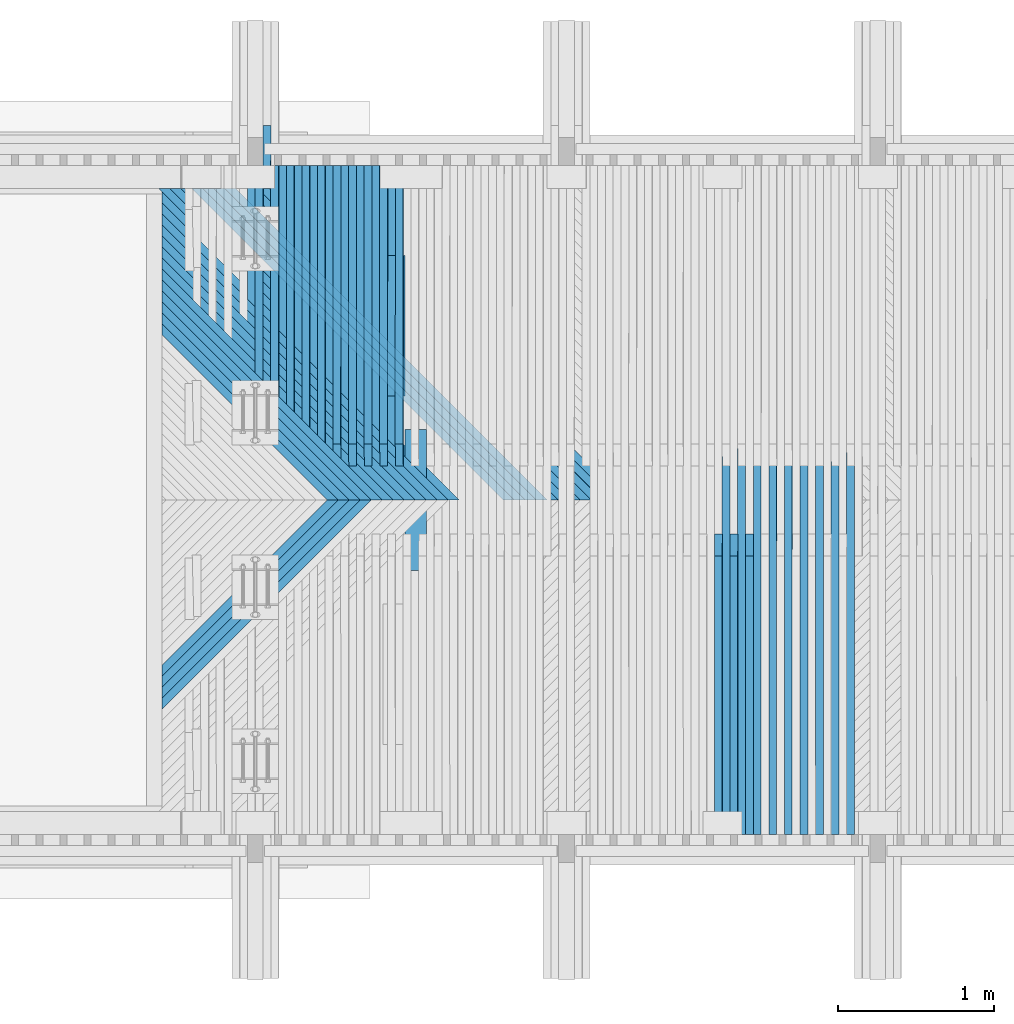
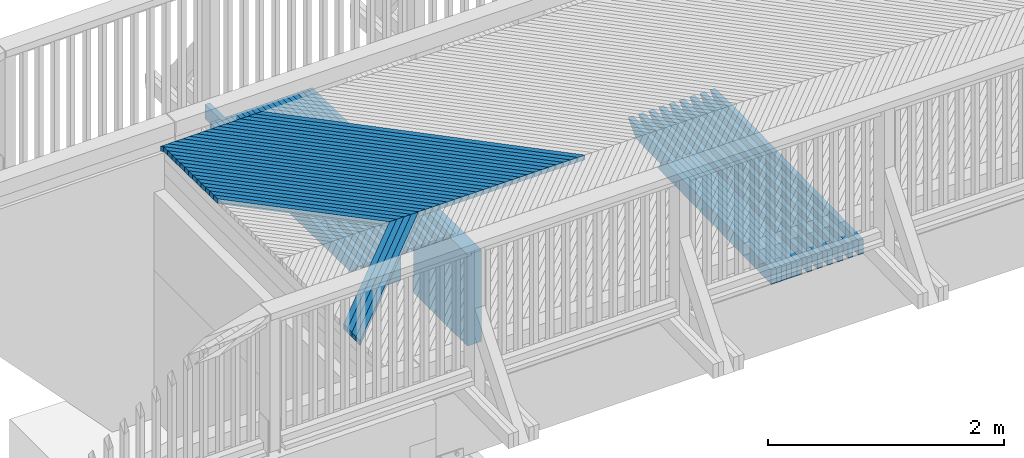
# One storey, part 19 of 53: 65 beams.
"""IFC2X3 building model written with IfcOpenShell, lengths in millimetres."""

from ifc_helpers import new_model, si_unit, frame, origin_with_axes, place, context, subcontext, project, spatial, faceted_brep, material, type_object, element, save


model = new_model("IFC2X3")

# Units and contexts
model_context = context("Model", 3, precision=1e-05, world=origin_with_axes())
body_context = subcontext(model_context, "Body", "Model", "MODEL_VIEW")
ifc_project = project(units=[si_unit("LENGTHUNIT", "METRE", prefix="MILLI"), si_unit("AREAUNIT", "SQUARE_METRE"), si_unit("VOLUMEUNIT", "CUBIC_METRE"), si_unit("MASSUNIT", "GRAM", prefix="KILO"), si_unit("TIMEUNIT", "SECOND"), si_unit("PLANEANGLEUNIT", "RADIAN"), si_unit("SOLIDANGLEUNIT", "STERADIAN"), si_unit("THERMODYNAMICTEMPERATUREUNIT", "DEGREE_CELSIUS"), si_unit("LUMINOUSINTENSITYUNIT", "LUMEN")], contexts=[model_context])

# Site, building, storey
site_placement = place(None, origin_with_axes())
site = spatial("IfcSite", under=ifc_project, at=site_placement, Name="Undefined", CompositionType="ELEMENT")
building_placement = place(site_placement, origin_with_axes())
building = spatial("IfcBuilding", under=site, at=building_placement, Name="Undefined", CompositionType="ELEMENT")
storey_placement = place(building_placement, origin_with_axes())
storey = spatial("IfcBuildingStorey", under=building, at=storey_placement, Name="Undefined", CompositionType="ELEMENT", Elevation=0.0)

# Beams
ifc_material = material(Name="TIMBER/Timber_Undefined")
beam_type_1 = type_object("IfcBeamType", Name="945*140", PredefinedType="NOTDEFINED")
for number, where, z_axis, x_axis in (
    (1, (1031.0, 42817.5, 2502.1379002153), (0.0, 0.0, 1.0), (0.0, -1.0, 0.0)),
    (2, (891.0, 43937.5, 2500.3779002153), (0.0, 0.0, 1.0), (0.0, -1.0, 0.0)),
):
    element("IfcBeam", number, at=place(storey_placement, frame(where, z_axis=z_axis, x_axis=x_axis)), inside=storey, type_object=beam_type_1, material=ifc_material, Name="PALKKI", ObjectType="945*140", context=body_context, shape_type="Brep", body=[
        faceted_brep([(0.0, 70.0, -472.5), (0.0, 70.0, 472.5), (905.0, 70.0, 472.5), (905.0, 70.0, -472.5), (0.0, -70.0, 472.5), (905.0, -70.0, 472.5), (0.0, -70.0, -472.5), (905.0, -70.0, -472.5)], [[[0, 1, 2, 3]], [[1, 4, 5, 2]], [[4, 6, 7, 5]], [[6, 0, 3, 7]], [[5, 7, 3, 2]], [[6, 4, 1, 0]]]),
    ])
beam_type_2 = type_object("IfcBeamType", Name="50*50", PredefinedType="NOTDEFINED")
beam_1_placement = place(storey_placement, frame((497.783472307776, 42364.5001003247, 3189.38189593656), z_axis=(0.707219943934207, -0.70698194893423, -0.00405891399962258), x_axis=(-0.706849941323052, -0.706948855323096, -0.024217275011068)))
element("IfcBeam", 3, at=beam_1_placement, inside=storey, type_object=beam_type_2, material=ifc_material, Name="BEAM", ObjectType="50*50", context=body_context, shape_type="Brep", body=[
    faceted_brep([(23.4806436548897, -25.0, -25.0), (-26.4222658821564, -25.0000000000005, 25.0000000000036), (-25.0086637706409, 24.9999999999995, 24.9999999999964), (24.8942457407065, 25.0, -25.0), (1528.55536067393, 25.0, -24.9999999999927), (1527.54724488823, -24.9999999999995, -24.9999999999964), (1577.57341753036, -25.0, 24.9999999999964), (1578.58153331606, 25.0, 25.0)], [[[0, 1, 2, 3]], [[0, 3, 4, 5]], [[1, 0, 5, 6]], [[2, 1, 6, 7]], [[3, 2, 7, 4]], [[6, 5, 4, 7]]]),
])
beam_2_placement = place(storey_placement, frame((497.783472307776, 42365.4998996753, 3189.38189593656), z_axis=(0.707219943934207, 0.70698194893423, -0.00405891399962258), x_axis=(-0.706849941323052, 0.706948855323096, -0.024217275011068)))
element("IfcBeam", 4, at=beam_2_placement, inside=storey, type_object=beam_type_2, material=ifc_material, Name="BEAM", ObjectType="50*50", context=body_context, shape_type="Brep", body=[
    faceted_brep([(25.0011701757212, -24.9999999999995, -24.9999999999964), (-25.001170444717, -24.9999999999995, 25.0000000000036), (-26.415415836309, 25.0000000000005, 25.0000000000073), (23.5869248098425, 25.0000000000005, -24.9999999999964), (1577.57341753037, 25.0000000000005, 24.9999999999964), (1527.54724488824, 24.9999999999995, -25.0000000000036), (1528.55536067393, -25.0, -24.9999999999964), (1578.58153331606, -25.0, 24.9999999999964)], [[[0, 1, 2, 3]], [[3, 2, 4, 5]], [[0, 3, 5, 6]], [[1, 0, 6, 7]], [[2, 1, 7, 4]], [[6, 5, 4, 7]]]),
])
beam_3_placement = place(storey_placement, frame((568.50226725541, 42364.5001003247, 3190.25895789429), z_axis=(0.707219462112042, -0.706981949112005, -0.0041419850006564), x_axis=(-0.706852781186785, -0.706948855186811, -0.0241342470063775)))
element("IfcBeam", 5, at=beam_3_placement, inside=storey, type_object=beam_type_2, material=ifc_material, Name="BEAM", ObjectType="50*50", context=body_context, shape_type="Brep", body=[
    faceted_brep([(23.4806436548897, -25.0, -25.0), (-26.4222658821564, -25.0000000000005, 25.0000000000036), (-25.0086637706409, 24.9999999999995, 24.9999999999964), (24.8942457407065, 25.0, -25.0), (1628.59250041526, 25.0, -25.0000000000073), (1627.5926949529, -24.9999999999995, -24.9999999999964), (1677.61863252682, -25.0000000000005, 25.0), (1678.61843798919, 24.9999999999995, 24.9999999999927)], [[[0, 1, 2, 3]], [[0, 3, 4, 5]], [[1, 0, 5, 6]], [[2, 1, 6, 7]], [[3, 2, 7, 4]], [[6, 5, 4, 7]]]),
])
beam_4_placement = place(storey_placement, frame((568.50226725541, 42365.4998996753, 3190.25895789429), z_axis=(0.707219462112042, 0.706981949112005, -0.0041419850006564), x_axis=(-0.706852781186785, 0.706948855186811, -0.0241342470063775)))
element("IfcBeam", 6, at=beam_4_placement, inside=storey, type_object=beam_type_2, material=ifc_material, Name="BEAM", ObjectType="50*50", context=body_context, shape_type="Brep", body=[
    faceted_brep([(25.0011701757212, -24.9999999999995, -24.9999999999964), (-25.001170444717, -24.9999999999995, 25.0000000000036), (-26.415415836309, 25.0000000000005, 25.0000000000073), (23.5869248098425, 25.0000000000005, -24.9999999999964), (1677.61863252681, 25.0, 25.0), (1627.59269495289, 24.9999999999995, -25.0000000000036), (1628.59250041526, -25.0, -25.0000000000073), (1678.61843798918, -25.0, 24.9999999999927)], [[[0, 1, 2, 3]], [[3, 2, 4, 5]], [[0, 3, 5, 6]], [[1, 0, 6, 7]], [[2, 1, 7, 4]], [[6, 5, 4, 7]]]),
])
beam_5_placement = place(storey_placement, frame((639.221164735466, 42364.5001003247, 3191.12771316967), z_axis=(0.707218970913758, -0.706981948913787, -0.00422505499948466), x_axis=(-0.70685561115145, -0.70694885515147, -0.0240512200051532)))
element("IfcBeam", 7, at=beam_5_placement, inside=storey, type_object=beam_type_2, material=ifc_material, Name="BEAM", ObjectType="50*50", context=body_context, shape_type="Brep", body=[
    faceted_brep([(23.4806436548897, -25.0, -25.0), (-26.4222658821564, -25.0000000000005, 25.0000000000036), (-25.0086637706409, 24.9999999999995, 24.9999999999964), (24.8942457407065, 25.0, -25.0), (1728.62900598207, 25.0000000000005, -25.0), (1727.63751066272, -25.0, -25.0000000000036), (1777.66321320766, -24.9999999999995, 24.9999999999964), (1778.65470852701, 25.0000000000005, 25.0)], [[[0, 1, 2, 3]], [[0, 3, 4, 5]], [[1, 0, 5, 6]], [[2, 1, 6, 7]], [[3, 2, 7, 4]], [[6, 5, 4, 7]]]),
])
beam_6_placement = place(storey_placement, frame((639.221164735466, 42365.4998996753, 3191.12771316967), z_axis=(0.707218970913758, 0.706981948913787, -0.00422505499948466), x_axis=(-0.70685561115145, 0.70694885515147, -0.0240512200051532)))
element("IfcBeam", 8, at=beam_6_placement, inside=storey, type_object=beam_type_2, material=ifc_material, Name="BEAM", ObjectType="50*50", context=body_context, shape_type="Brep", body=[
    faceted_brep([(25.0011701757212, -24.9999999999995, -24.9999999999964), (-25.001170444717, -24.9999999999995, 25.0000000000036), (-26.415415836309, 25.0000000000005, 25.0000000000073), (23.5869248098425, 25.0000000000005, -24.9999999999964), (1777.66321320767, 25.0, 25.0000000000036), (1727.63751066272, 25.0, -24.9999999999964), (1728.62900598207, -25.0000000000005, -24.9999999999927), (1778.65470852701, -24.9999999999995, 25.0000000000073)], [[[0, 1, 2, 3]], [[3, 2, 4, 5]], [[0, 3, 5, 6]], [[1, 0, 6, 7]], [[2, 1, 7, 4]], [[6, 5, 4, 7]]]),
])
beam_7_placement = place(storey_placement, frame((709.940163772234, 42364.5001003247, 3191.98816175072), z_axis=(0.707218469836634, -0.706981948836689, -0.00430812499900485), x_axis=(-0.706858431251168, -0.7069488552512, -0.0239681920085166)))
element("IfcBeam", 9, at=beam_7_placement, inside=storey, type_object=beam_type_2, material=ifc_material, Name="BEAM", ObjectType="50*50", context=body_context, shape_type="Brep", body=[
    faceted_brep([(23.4806436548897, -25.0, -25.0), (-26.4222658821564, -25.0000000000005, 25.0000000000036), (-25.0086637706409, 24.9999999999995, 24.9999999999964), (24.8942457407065, 25.0, -25.0), (1828.66488005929, 25.0, -25.0), (1827.68169485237, -25.0, -25.0), (1877.70716236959, -25.0000000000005, 25.0), (1878.69034757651, 25.0, 24.9999999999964)], [[[0, 1, 2, 3]], [[0, 3, 4, 5]], [[1, 0, 5, 6]], [[2, 1, 6, 7]], [[3, 2, 7, 4]], [[6, 5, 4, 7]]]),
])
beam_8_placement = place(storey_placement, frame((709.940163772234, 42365.4998996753, 3191.98816175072), z_axis=(0.707218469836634, 0.706981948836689, -0.00430812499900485), x_axis=(-0.706858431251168, 0.706948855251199, -0.0239681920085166)))
element("IfcBeam", 10, at=beam_8_placement, inside=storey, type_object=beam_type_2, material=ifc_material, Name="BEAM", ObjectType="50*50", context=body_context, shape_type="Brep", body=[
    faceted_brep([(25.0011701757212, -24.9999999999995, -24.9999999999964), (-25.001170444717, -24.9999999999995, 25.0000000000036), (-26.415415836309, 25.0000000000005, 25.0000000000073), (23.5869248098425, 25.0000000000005, -24.9999999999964), (1877.70716236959, 25.0, 25.0), (1827.68169485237, 25.0, -24.9999999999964), (1828.66488005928, -25.0000000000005, -25.0000000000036), (1878.69034757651, -25.0, 24.9999999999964)], [[[0, 1, 2, 3]], [[3, 2, 4, 5]], [[0, 3, 5, 6]], [[1, 0, 6, 7]], [[2, 1, 7, 4]], [[6, 5, 4, 7]]]),
])
beam_9_placement = place(storey_placement, frame((780.659263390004, 42365.4998996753, 3192.8403036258), z_axis=(0.707217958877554, 0.706981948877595, -0.00439119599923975), x_axis=(-0.706861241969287, 0.706948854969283, -0.0238851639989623)))
element("IfcBeam", 11, at=beam_9_placement, inside=storey, type_object=beam_type_2, material=ifc_material, Name="BEAM", ObjectType="50*50", context=body_context, shape_type="Brep", body=[
    faceted_brep([(25.0011701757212, -24.9999999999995, -24.9999999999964), (-25.001170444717, -24.9999999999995, 25.0000000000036), (-26.415415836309, 25.0000000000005, 25.0000000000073), (23.5869248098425, 25.0000000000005, -24.9999999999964), (1977.75048147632, 24.9999999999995, 25.0000000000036), (1927.72524901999, 24.9999999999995, -24.9999999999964), (1928.70012414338, -25.0000000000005, -25.0), (1978.7253565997, -25.0000000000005, 25.0)], [[[0, 1, 2, 3]], [[3, 2, 4, 5]], [[0, 3, 5, 6]], [[1, 0, 6, 7]], [[2, 1, 7, 4]], [[6, 5, 4, 7]]]),
])
beam_10_placement = place(storey_placement, frame((851.378462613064, 42365.4998996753, 3193.68413878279), z_axis=(0.707217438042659, 0.706981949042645, -0.00447426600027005), x_axis=(-0.706864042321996, 0.706948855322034, -0.0238021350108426)))
element("IfcBeam", 12, at=beam_10_placement, inside=storey, type_object=beam_type_2, material=ifc_material, Name="BEAM", ObjectType="50*50", context=body_context, shape_type="Brep", body=[
    faceted_brep([(25.0011701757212, -24.9999999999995, -24.9999999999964), (-25.001170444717, -24.9999999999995, 25.0000000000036), (-26.415415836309, 25.0000000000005, 25.0000000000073), (23.5869248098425, 25.0000000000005, -24.9999999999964), (2077.79317600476, 25.0000000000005, 25.0000000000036), (2027.76817857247, 25.0, -25.0000000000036), (2028.73474369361, -25.0, -25.0), (2078.7597411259, -25.0, 25.0)], [[[0, 1, 2, 3]], [[3, 2, 4, 5]], [[0, 3, 5, 6]], [[1, 0, 6, 7]], [[2, 1, 7, 4]], [[6, 5, 4, 7]]]),
])
beam_11_placement = place(storey_placement, frame((922.097760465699, 42365.4998996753, 3194.51966721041), z_axis=(0.707216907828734, 0.706981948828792, -0.00455733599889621), x_axis=(-0.706866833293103, 0.706948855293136, -0.0237191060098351)))
element("IfcBeam", 13, at=beam_11_placement, inside=storey, type_object=beam_type_2, material=ifc_material, Name="BEAM", ObjectType="50*50", context=body_context, shape_type="Brep", body=[
    faceted_brep([(25.0011701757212, -24.9999999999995, -24.9999999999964), (-25.001170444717, -24.9999999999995, 25.0000000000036), (-26.415415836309, 25.0000000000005, 25.0000000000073), (23.5869248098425, 25.0000000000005, -24.9999999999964), (2177.83524597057, 25.0, 25.0000000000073), (2127.81048355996, 25.0, -24.9999999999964), (2128.76873875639, -25.0, -24.9999999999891), (2178.793501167, -25.0, 25.0000000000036)], [[[0, 1, 2, 3]], [[3, 2, 4, 5]], [[0, 3, 5, 6]], [[1, 0, 6, 7]], [[2, 1, 7, 4]], [[6, 5, 4, 7]]]),
])
beam_12_placement = place(storey_placement, frame((992.817155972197, 42365.4998996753, 3195.34688889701), z_axis=(0.707216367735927, 0.706981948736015, -0.00464040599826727), x_axis=(-0.706869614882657, 0.706948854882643, -0.0236360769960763)))
element("IfcBeam", 14, at=beam_12_placement, inside=storey, type_object=beam_type_2, material=ifc_material, Name="BEAM", ObjectType="50*50", context=body_context, shape_type="Brep", body=[
    faceted_brep([(25.0011701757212, -24.9999999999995, -24.9999999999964), (-25.001170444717, -24.9999999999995, 25.0000000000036), (-26.415415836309, 25.0000000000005, 25.0000000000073), (23.5869248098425, 25.0000000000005, -24.9999999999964), (2277.87669396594, 24.9999999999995, 25.0000000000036), (2227.85216660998, 25.0, -24.9999999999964), (2228.80211195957, -24.9999999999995, -24.9999999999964), (2278.82663931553, -25.0000000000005, 25.0000000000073)], [[[0, 1, 2, 3]], [[3, 2, 4, 5]], [[0, 3, 5, 6]], [[1, 0, 6, 7]], [[2, 1, 7, 4]], [[6, 5, 4, 7]]]),
])
beam_13_placement = place(storey_placement, frame((1063.53664815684, 42365.4998996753, 3196.16580383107), z_axis=(0.707215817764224, 0.706981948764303, -0.00472347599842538), x_axis=(-0.706872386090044, 0.706948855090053, -0.0235530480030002)))
element("IfcBeam", 15, at=beam_13_placement, inside=storey, type_object=beam_type_2, material=ifc_material, Name="BEAM", ObjectType="50*50", context=body_context, shape_type="Brep", body=[
    faceted_brep([(25.0011701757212, -24.9999999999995, -24.9999999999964), (-25.001170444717, -24.9999999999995, 25.0000000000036), (-26.415415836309, 25.0000000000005, 25.0000000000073), (23.5869248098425, 25.0000000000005, -24.9999999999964), (2377.91752596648, 25.0000000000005, 25.0000000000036), (2327.89323362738, 25.0000000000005, -24.9999999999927), (2328.83486921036, -24.9999999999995, -24.9999999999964), (2378.85916154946, -24.9999999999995, 25.0000000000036)], [[[0, 1, 2, 3]], [[3, 2, 4, 5]], [[0, 3, 5, 6]], [[1, 0, 6, 7]], [[2, 1, 7, 4]], [[6, 5, 4, 7]]]),
])
beam_14_placement = place(storey_placement, frame((1134.25623604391, 42365.4998996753, 3196.97641200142), z_axis=(0.707215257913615, 0.706981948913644, -0.00480654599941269), x_axis=(-0.706875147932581, 0.706948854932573, -0.0234700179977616)))
element("IfcBeam", 16, at=beam_14_placement, inside=storey, type_object=beam_type_2, material=ifc_material, Name="BEAM", ObjectType="50*50", context=body_context, shape_type="Brep", body=[
    faceted_brep([(25.0011701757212, -24.9999999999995, -24.9999999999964), (-25.001170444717, -24.9999999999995, 25.0000000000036), (-26.415415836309, 25.0000000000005, 25.0000000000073), (23.5869248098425, 25.0000000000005, -24.9999999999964), (2477.9577414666, 25.0, 24.9999999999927), (2427.93368417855, 25.0000000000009, -25.0000000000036), (2428.8670100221, -24.9999999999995, -25.0000000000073), (2478.89106731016, -24.9999999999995, 24.9999999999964)], [[[0, 1, 2, 3]], [[3, 2, 4, 5]], [[0, 3, 5, 6]], [[1, 0, 6, 7]], [[2, 1, 7, 4]], [[6, 5, 4, 7]]]),
])
beam_15_placement = place(storey_placement, frame((1204.9759186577, 42365.4998996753, 3197.77871339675), z_axis=(0.707214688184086, 0.706981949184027, -0.00488961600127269), x_axis=(-0.706877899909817, 0.706948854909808, -0.0233869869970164)))
element("IfcBeam", 17, at=beam_15_placement, inside=storey, type_object=beam_type_2, material=ifc_material, Name="BEAM", ObjectType="50*50", context=body_context, shape_type="Brep", body=[
    faceted_brep([(25.0011701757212, -24.9999999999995, -24.9999999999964), (-25.001170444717, -24.9999999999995, 25.0000000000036), (-26.415415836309, 25.0000000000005, 25.0000000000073), (23.5869248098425, 25.0000000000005, -24.9999999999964), (2577.99734489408, 25.0000000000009, 25.0000000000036), (2527.97352265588, 25.0000000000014, -25.0), (2528.89853878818, -24.9999999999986, -24.9999999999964), (2578.92236102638, -24.9999999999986, 25.0)], [[[0, 1, 2, 3]], [[3, 2, 4, 5]], [[0, 3, 5, 6]], [[1, 0, 6, 7]], [[2, 1, 7, 4]], [[6, 5, 4, 7]]]),
])
beam_16_placement = place(storey_placement, frame((1275.69569502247, 42365.4998996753, 3198.57270800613), z_axis=(0.707214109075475, 0.706981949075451, -0.00497268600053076), x_axis=(-0.70688064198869, 0.706948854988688, -0.0233039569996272)))
element("IfcBeam", 18, at=beam_16_placement, inside=storey, type_object=beam_type_2, material=ifc_material, Name="BEAM", ObjectType="50*50", context=body_context, shape_type="Brep", body=[
    faceted_brep([(25.0011701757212, -24.9999999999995, -24.9999999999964), (-25.001170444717, -24.9999999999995, 25.0000000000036), (-26.415415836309, 25.0000000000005, 25.0000000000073), (23.5869248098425, 25.0000000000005, -24.9999999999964), (2678.0363391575, 24.9999999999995, 24.9999999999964), (2628.01275193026, 25.0, -25.0), (2628.92945847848, -24.9999999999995, -25.0), (2678.95304570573, -25.0, 24.9999999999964)], [[[0, 1, 2, 3]], [[3, 2, 4, 5]], [[0, 3, 5, 6]], [[1, 0, 6, 7]], [[2, 1, 7, 4]], [[6, 5, 4, 7]]]),
])
beam_17_placement = place(storey_placement, frame((1346.41556416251, 42365.4998996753, 3199.3583958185), z_axis=(0.70721352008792, 0.706981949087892, -0.00505575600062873), x_axis=(-0.706883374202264, 0.706948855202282, -0.0232209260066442)))
element("IfcBeam", 19, at=beam_17_placement, inside=storey, type_object=beam_type_2, material=ifc_material, Name="BEAM", ObjectType="50*50", context=body_context, shape_type="Brep", body=[
    faceted_brep([(25.0011701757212, -24.9999999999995, -24.9999999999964), (-25.001170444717, -24.9999999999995, 25.0000000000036), (-26.415415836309, 25.0000000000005, 25.0000000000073), (23.5869248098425, 25.0000000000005, -24.9999999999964), (2778.07472698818, 25.0, 25.0000000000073), (2728.0513747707, 25.0000000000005, -24.9999999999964), (2728.95977176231, -25.0, -24.9999999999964), (2778.98312397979, -25.0, 25.0000000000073)], [[[0, 1, 2, 3]], [[3, 2, 4, 5]], [[0, 3, 5, 6]], [[1, 0, 6, 7]], [[2, 1, 7, 4]], [[6, 5, 4, 7]]]),
])
for number, where, z_axis, x_axis, name in (
    (20, (1417.1355251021, 42365.4998996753, 3200.13577682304), (0.70721292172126, 0.706981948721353, -0.00513882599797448), (-0.706886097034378, 0.706948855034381, -0.0231378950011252), "BEAM"),
    (21, (1487.85557686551, 42365.4998996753, 3200.90485100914), (0.707212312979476, 0.706981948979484, -0.00522189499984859), (-0.706888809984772, 0.70694885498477, -0.0230548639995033), "BEAM"),
    (22, (1558.57571847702, 42365.4998996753, 3201.66561836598), (0.707211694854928, 0.706981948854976, -0.00530496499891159), (-0.706891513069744, 0.706948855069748, -0.0229718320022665), "BEAM"),
    (23, (1629.2959489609, 42365.4998996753, 3202.41807888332), (0.707211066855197, 0.706981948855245, -0.00538803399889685), (-0.706894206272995, 0.706948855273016, -0.0228888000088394), "BEAM"),
    (24, (1700.01626734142, 42365.4998996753, 3203.16223255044), (0.707210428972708, 0.706981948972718, -0.00547110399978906), (-0.706896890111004, 0.706948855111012, -0.0228057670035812), "BEAM"),
    (25, (1770.73667264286, 42365.4998996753, 3203.89807935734), (0.70720978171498, 0.706981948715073, -0.00555417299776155), (-0.706899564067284, 0.706948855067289, -0.0227227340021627), "BEAM"),
    (26, (1841.45716388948, 42365.4998996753, 3204.62561929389), (0.707209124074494, 0.706981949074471, -0.00563724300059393), (-0.706902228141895, 0.706948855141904, -0.0226397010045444), "BEAM"),
    (27, (1912.17774010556, 42365.4998996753, 3205.34485234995), (0.707208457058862, 0.706981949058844, -0.00572031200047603), (-0.706904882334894, 0.706948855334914, -0.0225566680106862), "BEAM"),
    (28, (1982.89840031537, 42365.4998996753, 3206.05577851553), (0.707207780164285, 0.706981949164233, -0.0058033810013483), (-0.706907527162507, 0.706948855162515, -0.0224736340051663), "BEAM"),
    (29, (2053.61914354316, 42365.4998996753, 3206.75839778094), (0.707207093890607, 0.706981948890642, -0.00588644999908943), (-0.706910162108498, 0.706948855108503, -0.0223906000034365), "BEAM"),
    (30, (2124.3399688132, 42365.4998996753, 3207.45271013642), (0.707206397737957, 0.706981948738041, -0.00596951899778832), (-0.706912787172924, 0.706948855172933, -0.0223075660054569), "BEAM"),
    (31, (2195.06087514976, 42365.4998996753, 3208.13871557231), (0.70720569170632, 0.706981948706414, -0.00605258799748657), (-0.706915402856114, 0.706948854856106, -0.0222245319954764), "BEAM"),
    (32, (2265.78186157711, 42365.4998996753, 3208.8164140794), (0.707204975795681, 0.706981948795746, -0.00613565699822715), (-0.706918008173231, 0.706948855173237, -0.0221414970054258), "BEAM"),
    (33, (2336.5029271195, 42365.4998996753, 3209.48580564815), (0.707204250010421, 0.706981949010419, -0.00621872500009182), (-0.706920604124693, 0.706948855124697, -0.0220584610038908), "BEAM"),
):
    element("IfcBeam", number, at=place(storey_placement, frame(where, z_axis=z_axis, x_axis=x_axis)), inside=storey, type_object=beam_type_2, material=ifc_material, Name=name, ObjectType="50*50", context=body_context, shape_type="Brep", body=[
        faceted_brep([(23.5869248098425, 25.0000000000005, -24.9999999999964), (-26.415415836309, 25.0000000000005, 25.0000000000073), (2802.92643296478, 25.0, 25.0), (2852.92877373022, 25.0, -25.0000000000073), (-25.001170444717, -24.9999999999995, 25.0000000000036), (2804.3406783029, -25.0, 24.9999999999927), (25.0011701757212, -24.9999999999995, -24.9999999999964), (2854.34301907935, -25.0, -25.0)], [[[0, 1, 2, 3]], [[1, 4, 5, 2]], [[4, 6, 7, 5]], [[6, 0, 3, 7]], [[5, 7, 3, 2]], [[6, 4, 1, 0]]]),
    ])
beam_type_3 = type_object("IfcBeamType", Name="150*50", PredefinedType="NOTDEFINED")
for number, where, z_axis, x_axis, name in (
    (34, (3175.86109891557, 40216.5046076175, 3073.81474763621), (-0.00809539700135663, -0.0199960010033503, 0.999767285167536), (-0.000161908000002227, 0.999800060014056, 0.0199953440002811), "BEAM"),
    (35, (3075.84434477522, 40216.5046076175, 3073.00488201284), (-0.00826151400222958, -0.0199960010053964, 0.999765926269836), (-0.000165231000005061, 0.999800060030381, 0.0199953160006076), "BEAM"),
    (36, (2975.82772657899, 40216.5046076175, 3072.1783980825), (-0.00842762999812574, -0.0199960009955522, 0.999764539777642), (-0.0001685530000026, 0.999800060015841, 0.0199952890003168), "BEAM"),
):
    element("IfcBeam", number, at=place(storey_placement, frame(where, z_axis=z_axis, x_axis=x_axis)), inside=storey, type_object=beam_type_3, material=ifc_material, Name=name, ObjectType="150*50", context=body_context, shape_type="Brep", body=[
        faceted_brep([(1.28420651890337e-08, -24.9999999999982, -74.9999999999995), (-1.28347892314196e-08, -24.9999999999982, 75.0), (-1.28347892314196e-08, 25.0, 75.0), (1.28420651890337e-08, 25.0000000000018, -75.0), (1928.42646353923, -25.0000000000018, -75.0), (1789.96936433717, -25.0000000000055, 74.9999999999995), (1789.96936408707, 24.9999999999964, 75.0000000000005), (1928.42646328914, 24.9999999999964, -74.9999999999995)], [[[0, 1, 2, 3]], [[1, 0, 4, 5]], [[2, 1, 5, 6]], [[3, 2, 6, 7]], [[0, 3, 7, 4]], [[7, 6, 5, 4]]]),
    ])
for number, where, z_axis, x_axis, name in (
    (37, (3825.98315440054, 40216.5046076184, 3078.67179443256), (-0.00693292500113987, -0.0199960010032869, 0.999776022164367), (-0.000138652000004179, 0.99980006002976, 0.0199955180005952), "BEAM"),
    (38, (3725.96558426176, 40216.5046076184, 3077.96994999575), (-0.007098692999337, -0.0199960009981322, 0.999774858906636), (-0.00014197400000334, 0.999800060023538, 0.0199954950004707), "BEAM"),
    (39, (3625.9481321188, 40216.5046076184, 3077.25148711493), (-0.00726481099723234, -0.0199960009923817, 0.999773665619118), (-0.000145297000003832, 0.999800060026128, 0.0199954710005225), "BEAM"),
    (40, (3525.93080073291, 40216.5046076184, 3076.51640581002), (-0.00743092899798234, -0.0199960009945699, 0.999772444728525), (-0.000148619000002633, 0.999800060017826, 0.0199954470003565), "BEAM"),
    (41, (3425.91359286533, 40216.5046076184, 3075.76470610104), (-0.00759704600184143, -0.0199960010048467, 0.99977119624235), (-0.000151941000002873, 0.999800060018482, 0.0199954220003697), "BEAM"),
    (42, (3325.89651127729, 40216.5046076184, 3074.99638800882), (-0.00776316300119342, -0.0199960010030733, 0.999769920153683), (-0.000155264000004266, 0.999800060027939, 0.0199953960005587), "BEAM"),
    (43, (3225.87955873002, 40216.5046076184, 3074.21145155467), (-0.0079292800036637, -0.019996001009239, 0.99976861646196), (-0.000158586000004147, 0.999800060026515, 0.0199953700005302), "BEAM"),
    (44, (3125.86273798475, 40216.5046076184, 3073.40989676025), (-0.00809539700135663, -0.0199960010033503, 0.999767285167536), (-0.000161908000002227, 0.999800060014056, 0.0199953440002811), "BEAM"),
    (45, (3025.84605180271, 40216.5046076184, 3072.59172364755), (-0.00826151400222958, -0.0199960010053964, 0.999765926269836), (-0.000165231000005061, 0.999800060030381, 0.0199953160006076), "BEAM"),
):
    element("IfcBeam", number, at=place(storey_placement, frame(where, z_axis=z_axis, x_axis=x_axis)), inside=storey, type_object=beam_type_3, material=ifc_material, Name=name, ObjectType="150*50", context=body_context, shape_type="Brep", body=[
        faceted_brep([(1.28420651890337e-08, -24.9999999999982, -74.9999999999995), (-1.28347892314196e-08, -24.9999999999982, 75.0), (-1.28347892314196e-08, 25.0, 75.0), (1.28420651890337e-08, 25.0000000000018, -75.0), (2375.00494422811, 25.0000000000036, -75.0), (2375.0049444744, -24.9999999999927, -74.9999999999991), (2510.5924871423, -24.9999999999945, 60.5875430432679), (2150.42514405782, -24.9999999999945, 75.0), (2150.42515052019, 25.0000000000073, 75.0), (2510.59248715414, 25.0000000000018, 60.5875433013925)], [[[0, 1, 2, 3]], [[0, 3, 4, 5]], [[1, 0, 5, 6, 7]], [[2, 1, 7, 8]], [[4, 3, 2, 8, 9]], [[5, 4, 9, 6]], [[6, 9, 8, 7]]]),
    ])
for number, where, z_axis, x_axis, name in (
    (46, (875.515037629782, 44513.4953923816, 3050.98345109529), (-0.0119160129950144, 0.0199960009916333, 0.999729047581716), (-0.000238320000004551, -0.99980006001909, 0.0199945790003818), "BEAM"),
    (47, (775.50210878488, 44513.4953923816, 3049.79137099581), (-0.0120821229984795, 0.019996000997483, 0.999727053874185), (-0.000241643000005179, -0.999800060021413, 0.0199945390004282), "BEAM"),
    (48, (675.489379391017, 44513.4953923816, 3048.58267323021), (-0.0122482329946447, 0.0199960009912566, 0.999725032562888), (-0.000244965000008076, -0.99980006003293, 0.0199944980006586), "BEAM"),
    (49, (575.476852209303, 44513.4953923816, 3047.35735783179), (-0.012414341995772, 0.0199960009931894, 0.99972298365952), (-0.000248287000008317, -0.999800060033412, 0.0199944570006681), "BEAM"),
    (50, (475.464530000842, 44513.4953923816, 3046.11542483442), (-0.0125804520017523, 0.0199960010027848, 0.999720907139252), (-0.000251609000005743, -0.999800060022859, 0.0199944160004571), "BEAM"),
    (51, (375.452415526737, 44513.4953923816, 3044.85687427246), (-0.0127465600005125, 0.0199960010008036, 0.9997188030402), (-0.000254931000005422, -0.999800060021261, 0.0199943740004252), "BEAM"),
    (52, (275.44051154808, 44513.4953923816, 3043.58170618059), (-0.0129126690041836, 0.0199960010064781, 0.999716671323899), (-0.000258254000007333, -0.99980006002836, 0.0199943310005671), "BEAM"),
    (53, (175.42882082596, 44513.4953923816, 3042.28992059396), (-0.0130787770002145, 0.0199960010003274, 0.999714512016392), (-0.000261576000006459, -0.999800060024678, 0.0199942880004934), "BEAM"),
):
    element("IfcBeam", number, at=place(storey_placement, frame(where, z_axis=z_axis, x_axis=x_axis)), inside=storey, type_object=beam_type_3, material=ifc_material, Name=name, ObjectType="150*50", context=body_context, shape_type="Brep", body=[
        faceted_brep([(1.28420651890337e-08, -24.9999999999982, -74.9999999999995), (1.28420651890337e-08, 25.0000000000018, -75.0), (2375.00494422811, 25.0000000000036, -75.0), (2375.0049444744, -24.9999999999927, -74.9999999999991), (-1.28347892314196e-08, -24.9999999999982, 75.0), (-1.28347892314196e-08, 25.0, 75.0), (2150.42515052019, 25.0000000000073, 75.0), (2510.59248715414, 25.0000000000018, 60.5875433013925), (2510.5924871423, -24.9999999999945, 60.5875430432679), (2150.42514405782, -24.9999999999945, 75.0)], [[[0, 1, 2, 3]], [[0, 4, 5, 1]], [[2, 1, 5, 6, 7]], [[3, 2, 7, 8]], [[4, 0, 3, 8, 9]], [[5, 4, 9, 6]], [[8, 7, 6, 9]]]),
    ])
for number, where, z_axis, x_axis, name in (
    (54, (925.531616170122, 44513.4953923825, 3051.5713008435), (-0.011749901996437, 0.019996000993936, 0.999731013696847), (-0.000234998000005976, -0.99980006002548, 0.0199946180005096), "BEAM"),
    (55, (825.518588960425, 44513.4953923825, 3050.38753125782), (-0.0119160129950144, 0.0199960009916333, 0.999729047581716), (-0.000238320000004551, -0.99980006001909, 0.0199945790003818), "BEAM"),
    (56, (725.505759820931, 44513.4953923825, 3049.18714398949), (-0.0120821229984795, 0.019996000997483, 0.999727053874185), (-0.000241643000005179, -0.999800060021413, 0.0199945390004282), "BEAM"),
    (57, (625.493131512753, 44513.4953923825, 3047.97013907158), (-0.0122482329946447, 0.0199960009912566, 0.999725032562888), (-0.000244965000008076, -0.99980006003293, 0.0199944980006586), "BEAM"),
    (58, (525.480706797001, 44513.4953923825, 3046.73651653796), (-0.012414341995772, 0.0199960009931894, 0.99972298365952), (-0.000248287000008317, -0.999800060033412, 0.0199944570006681), "BEAM"),
    (59, (425.468488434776, 44513.4953923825, 3045.48627642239), (-0.0125804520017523, 0.0199960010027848, 0.999720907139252), (-0.000251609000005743, -0.999800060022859, 0.0199944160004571), "BEAM"),
    (60, (325.456479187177, 44513.4953923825, 3044.21941875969), (-0.0127465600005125, 0.0199960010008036, 0.9997188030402), (-0.000254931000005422, -0.999800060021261, 0.0199943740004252), "BEAM"),
    (61, (225.444681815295, 44513.4953923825, 3042.93594358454), (-0.0129126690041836, 0.0199960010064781, 0.999716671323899), (-0.000258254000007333, -0.99980006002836, 0.0199943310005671), "BEAM"),
    (62, (125.433099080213, 44513.4953923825, 3041.63585093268), (-0.0130787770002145, 0.0199960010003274, 0.999714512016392), (-0.000261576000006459, -0.999800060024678, 0.0199942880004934), "BEAM"),
):
    element("IfcBeam", number, at=place(storey_placement, frame(where, z_axis=z_axis, x_axis=x_axis)), inside=storey, type_object=beam_type_3, material=ifc_material, Name=name, ObjectType="150*50", context=body_context, shape_type="Brep", body=[
        faceted_brep([(1.28420651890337e-08, -24.9999999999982, -74.9999999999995), (-1.28347892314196e-08, -24.9999999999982, 75.0), (-1.28347892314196e-08, 25.0, 75.0), (1.28420651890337e-08, 25.0000000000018, -75.0), (1928.42646328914, 24.9999999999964, -74.9999999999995), (1928.42646353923, -25.0000000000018, -75.0), (1789.96936433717, -25.0000000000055, 74.9999999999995), (1789.96936408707, 24.9999999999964, 75.0000000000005)], [[[0, 1, 2, 3]], [[0, 3, 4, 5]], [[1, 0, 5, 6]], [[2, 1, 6, 7]], [[3, 2, 7, 4]], [[4, 7, 6, 5]]]),
    ])
beam_18_placement = place(storey_placement, frame((-24.5939098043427, 44513.4953923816, 3039.65649707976), z_axis=(-0.0134109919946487, 0.0199960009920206, 0.999710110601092), x_axis=(-0.000268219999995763, -0.999800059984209, 0.0199942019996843)))
element("IfcBeam", 63, at=beam_18_placement, inside=storey, type_object=beam_type_3, material=ifc_material, Name="BEAM", ObjectType="150*50", context=body_context, shape_type="Brep", body=[
    faceted_brep([(1.28420651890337e-08, -24.9999999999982, -74.9999999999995), (1.28420651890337e-08, 25.0000000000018, -75.0), (2375.00494422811, 25.0000000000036, -75.0), (2375.0049444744, -24.9999999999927, -74.9999999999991), (-1.28347892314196e-08, -24.9999999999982, 75.0), (-1.28347892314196e-08, 25.0, 75.0), (2150.42515052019, 25.0000000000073, 75.0), (2510.59248715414, 25.0000000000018, 60.5875433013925), (2510.5924871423, -24.9999999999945, 60.5875430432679), (2150.42514405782, -24.9999999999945, 75.0)], [[[0, 1, 2, 3]], [[0, 4, 5, 1]], [[2, 1, 5, 6, 7]], [[3, 2, 7, 8]], [[4, 0, 3, 8, 9]], [[5, 4, 9, 6]], [[8, 7, 6, 9]]]),
])
beam_19_placement = place(storey_placement, frame((75.4856898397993, 44771.443807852, 3035.82300259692), z_axis=(-0.0132448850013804, 0.0199960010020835, 0.99971232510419), x_axis=(-0.000265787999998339, -0.999800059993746, 0.0199942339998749)))
element("IfcBeam", 64, at=beam_19_placement, inside=storey, type_object=beam_type_3, material=ifc_material, Name="BEAM", ObjectType="150*50", context=body_context, shape_type="Brep", body=[
    faceted_brep([(1.28420651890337e-08, -24.9999999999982, -74.9999999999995), (1.28420651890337e-08, 25.0000000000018, -75.0), (2633.00494750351, 25.0, -75.0), (2633.00494763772, -25.0, -75.0), (-1.28347892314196e-08, -24.9999999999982, 75.0), (-1.28347892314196e-08, 25.0, 75.0), (2408.42506824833, 24.9999999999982, 75.0), (2768.59248710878, 24.9999999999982, 60.5875398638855), (2768.59248713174, -25.0, 60.5875397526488), (2408.42506549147, -25.0000000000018, 75.0000000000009)], [[[0, 1, 2, 3]], [[0, 4, 5, 1]], [[2, 1, 5, 6, 7]], [[3, 2, 7, 8]], [[4, 0, 3, 8, 9]], [[5, 4, 9, 6]], [[8, 7, 6, 9]]]),
])
beam_20_placement = place(storey_placement, frame((25.4217337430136, 44513.4953923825, 3040.31914083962), z_axis=(-0.0132448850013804, 0.0199960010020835, 0.99971232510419), x_axis=(-0.000265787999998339, -0.999800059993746, 0.0199942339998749)))
element("IfcBeam", 65, at=beam_20_placement, inside=storey, type_object=beam_type_3, material=ifc_material, Name="BEAM", ObjectType="150*50", context=body_context, shape_type="Brep", body=[
    faceted_brep([(1.28420651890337e-08, -24.9999999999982, -74.9999999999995), (-1.28347892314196e-08, -24.9999999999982, 75.0), (-1.28347892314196e-08, 25.0, 75.0), (1.28420651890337e-08, 25.0000000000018, -75.0), (1928.42646328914, 24.9999999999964, -74.9999999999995), (1928.42646353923, -25.0000000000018, -75.0), (1789.96936433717, -25.0000000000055, 74.9999999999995), (1789.96936408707, 24.9999999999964, 75.0000000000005)], [[[0, 1, 2, 3]], [[0, 3, 4, 5]], [[1, 0, 5, 6]], [[2, 1, 6, 7]], [[3, 2, 7, 4]], [[4, 7, 6, 5]]]),
])

save(model, "model.ifc")
